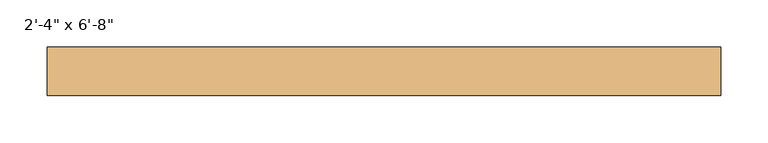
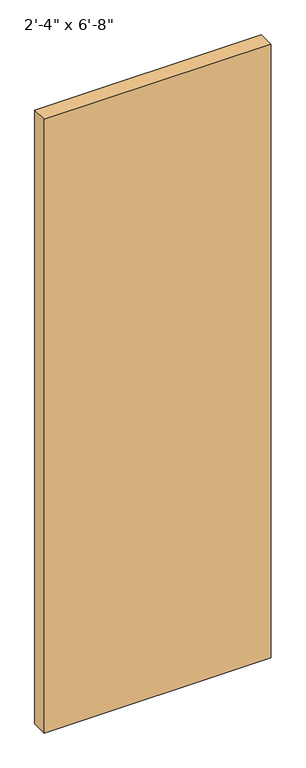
"""IFC4 building model written with IfcOpenShell, lengths in millimetres: door geometry."""

from ifc_helpers import new_model, si_unit, origin, origin_with_axes, place, context, project, spatial, polyline, outline, extrude, source, transform, mapped, element, save


def door_61c99268(model_context):
    return source(origin(), model_context, "Body", "SweptSolid", [
        extrude(outline(polyline([(355.6, -31.5515625), (355.6, -82.55), (-355.6, -82.55), (-355.6, -31.5515625), (355.6, -31.5515625)])), origin_with_axes(), (0.0, 0.0, 1.0), 2032.0),
    ])


if __name__ == "__main__":
    model = new_model("IFC4")
    model_context = context("Model", 3, world=origin())
    ifc_project = project(units=[si_unit("LENGTHUNIT", "METRE", prefix="MILLI")], contexts=[model_context])
    site = spatial("IfcSite", under=ifc_project)
    building = spatial("IfcBuilding", under=site)
    placement = place(None, origin())
    door_shape = door_61c99268(model_context)
    element("IfcDoor", 1, ObjectType="Planitar - Single Door_Flush Panel : 2'-4\" x 6'-8\"", at=placement, inside=building, context=model_context, shape_type="MappedRepresentation", body=[
        mapped(door_shape, transform((0.0, 0.0, 0.0), x_axis=(1.0, 0.0, 0.0), y_axis=(0.0, 1.0, 0.0), z_axis=(0.0, 0.0, 1.0))),
    ])
    save(model, "model.ifc")
